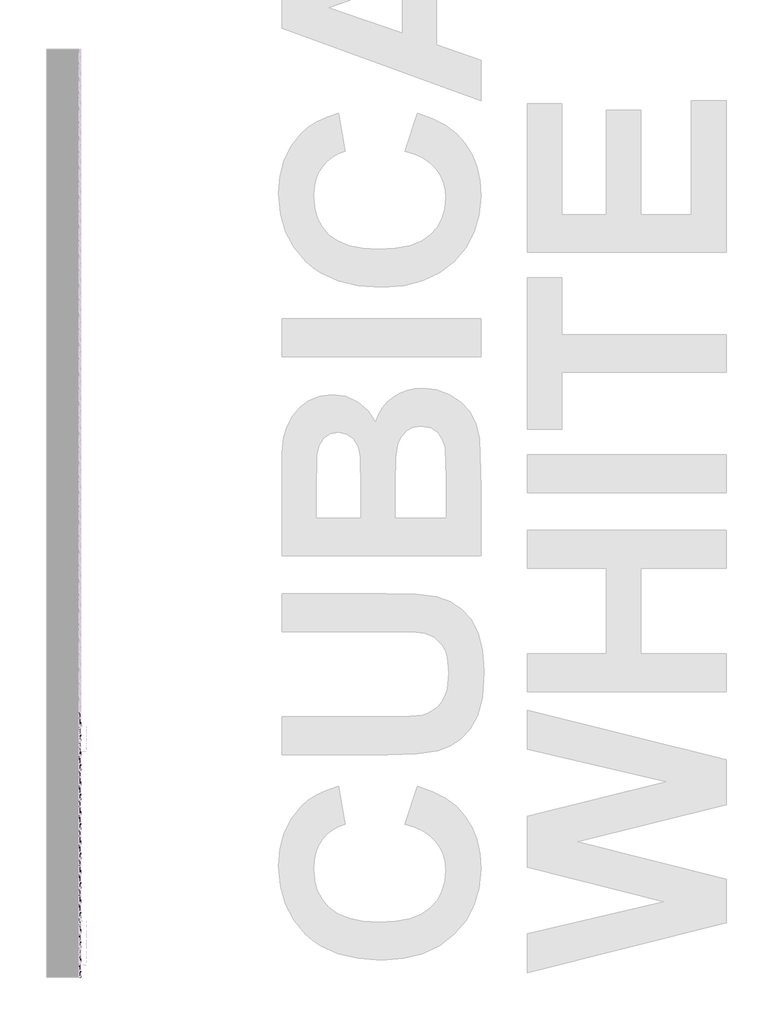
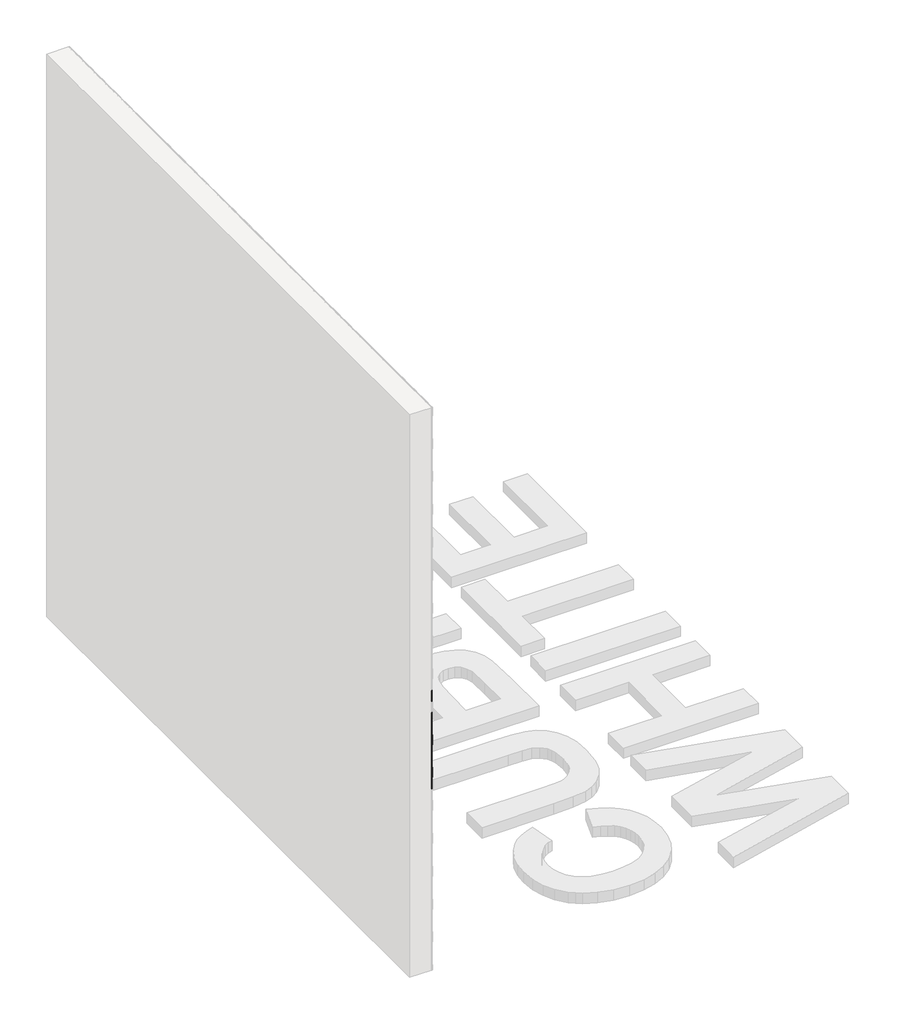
# One storey, part 100 of 121: 145 proxies.
"""IFC4 building model written with IfcOpenShell, lengths in millimetres."""

from ifc_helpers import new_model, si_unit, origin, place, context, project, spatial, transform, mapped, element, save
from components import generic_models_b2b2c5c1, generic_models_9bf73f6f, generic_models_5d175859, generic_models_45888c4d

model = new_model("IFC4")

# Units and contexts
model_context = context("Model", 3, world=origin())
ifc_project = project(units=[si_unit("LENGTHUNIT", "METRE", prefix="MILLI")], contexts=[model_context])

# Site, building, storey
site = spatial("IfcSite", under=ifc_project)
building = spatial("IfcBuilding", under=site)
storey = spatial("IfcBuildingStorey", under=building, Name="PORTOBELLO - SHOWROOM", Elevation=0.0)

# Proxies
placement = place(None, origin())
generic_models_shape = generic_models_b2b2c5c1(model_context)
element("IfcBuildingElementProxy", 1, Name="PBSHOP - CUBICA WHITE 4,8X8,3 : CUBICA WHITE - POSIÇÃO 01", ObjectType="PBSHOP - CUBICA WHITE 4,8X8,3 : CUBICA WHITE - POSIÇÃO 01", at=placement, inside=storey, context=model_context, shape_type="MappedRepresentation", body=[
    mapped(generic_models_shape, transform((150369.5341846, 19696.1637264, 907.7031889), x_axis=(0.0, 1.0, 0.0), y_axis=(0.0, 0.0, 1.0), z_axis=(1.0, 0.0, 0.0))),
])
element("IfcBuildingElementProxy", 2, Name="PBSHOP - CUBICA WHITE 4,8X8,3 : CUBICA WHITE - POSIÇÃO 01", ObjectType="PBSHOP - CUBICA WHITE 4,8X8,3 : CUBICA WHITE - POSIÇÃO 01", at=placement, inside=storey, context=model_context, shape_type="MappedRepresentation", body=[
    mapped(generic_models_shape, transform((150369.5341846, 19787.0029957, 907.7031889), x_axis=(0.0, 1.0, 0.0), y_axis=(0.0, 0.0, 1.0), z_axis=(1.0, 0.0, 0.0))),
])
element("IfcBuildingElementProxy", 3, Name="PBSHOP - CUBICA WHITE 4,8X8,3 : CUBICA WHITE - POSIÇÃO 01", ObjectType="PBSHOP - CUBICA WHITE 4,8X8,3 : CUBICA WHITE - POSIÇÃO 01", at=placement, inside=storey, context=model_context, shape_type="MappedRepresentation", body=[
    mapped(generic_models_shape, transform((150369.5341846, 19877.8422649, 907.7031889), x_axis=(0.0, 1.0, 0.0), y_axis=(0.0, 0.0, 1.0), z_axis=(1.0, 0.0, 0.0))),
])
element("IfcBuildingElementProxy", 4, Name="PBSHOP - CUBICA WHITE 4,8X8,3 : CUBICA WHITE - POSIÇÃO 01", ObjectType="PBSHOP - CUBICA WHITE 4,8X8,3 : CUBICA WHITE - POSIÇÃO 01", at=placement, inside=storey, context=model_context, shape_type="MappedRepresentation", body=[
    mapped(generic_models_shape, transform((150369.5341846, 19968.6815341, 907.7031889), x_axis=(0.0, 1.0, 0.0), y_axis=(0.0, 0.0, 1.0), z_axis=(1.0, 0.0, 0.0))),
])
element("IfcBuildingElementProxy", 5, Name="PBSHOP - CUBICA WHITE 4,8X8,3 : CUBICA WHITE - POSIÇÃO 01", ObjectType="PBSHOP - CUBICA WHITE 4,8X8,3 : CUBICA WHITE - POSIÇÃO 01", at=placement, inside=storey, context=model_context, shape_type="MappedRepresentation", body=[
    mapped(generic_models_shape, transform((150369.5341846, 19196.5477456, 986.6378273), x_axis=(0.0, 1.0, 0.0), y_axis=(0.0, 0.0, 1.0), z_axis=(1.0, 0.0, 0.0))),
])
element("IfcBuildingElementProxy", 6, Name="PBSHOP - CUBICA WHITE 4,8X8,3 : CUBICA WHITE - POSIÇÃO 01", ObjectType="PBSHOP - CUBICA WHITE 4,8X8,3 : CUBICA WHITE - POSIÇÃO 01", at=placement, inside=storey, context=model_context, shape_type="MappedRepresentation", body=[
    mapped(generic_models_shape, transform((150369.5341846, 19287.3870148, 986.6378273), x_axis=(0.0, 1.0, 0.0), y_axis=(0.0, 0.0, 1.0), z_axis=(1.0, 0.0, 0.0))),
])
element("IfcBuildingElementProxy", 7, Name="PBSHOP - CUBICA WHITE 4,8X8,3 : CUBICA WHITE - POSIÇÃO 01", ObjectType="PBSHOP - CUBICA WHITE 4,8X8,3 : CUBICA WHITE - POSIÇÃO 01", at=placement, inside=storey, context=model_context, shape_type="MappedRepresentation", body=[
    mapped(generic_models_shape, transform((150369.5341846, 19378.2262841, 986.6378273), x_axis=(0.0, 1.0, 0.0), y_axis=(0.0, 0.0, 1.0), z_axis=(1.0, 0.0, 0.0))),
])
element("IfcBuildingElementProxy", 8, Name="PBSHOP - CUBICA WHITE 4,8X8,3 : CUBICA WHITE - POSIÇÃO 01", ObjectType="PBSHOP - CUBICA WHITE 4,8X8,3 : CUBICA WHITE - POSIÇÃO 01", at=placement, inside=storey, context=model_context, shape_type="MappedRepresentation", body=[
    mapped(generic_models_shape, transform((150369.5341846, 19469.0655533, 986.6378273), x_axis=(0.0, 1.0, 0.0), y_axis=(0.0, 0.0, 1.0), z_axis=(1.0, 0.0, 0.0))),
])
element("IfcBuildingElementProxy", 9, Name="PBSHOP - CUBICA WHITE 4,8X8,3 : CUBICA WHITE - POSIÇÃO 01", ObjectType="PBSHOP - CUBICA WHITE 4,8X8,3 : CUBICA WHITE - POSIÇÃO 01", at=placement, inside=storey, context=model_context, shape_type="MappedRepresentation", body=[
    mapped(generic_models_shape, transform((150369.5341846, 19559.9048225, 986.6378273), x_axis=(0.0, 1.0, 0.0), y_axis=(0.0, 0.0, 1.0), z_axis=(1.0, 0.0, 0.0))),
])
element("IfcBuildingElementProxy", 10, Name="PBSHOP - CUBICA WHITE 4,8X8,3 : CUBICA WHITE - POSIÇÃO 01", ObjectType="PBSHOP - CUBICA WHITE 4,8X8,3 : CUBICA WHITE - POSIÇÃO 01", at=placement, inside=storey, context=model_context, shape_type="MappedRepresentation", body=[
    mapped(generic_models_shape, transform((150369.5341846, 19650.7440918, 986.6378273), x_axis=(0.0, 1.0, 0.0), y_axis=(0.0, 0.0, 1.0), z_axis=(1.0, 0.0, 0.0))),
])
element("IfcBuildingElementProxy", 11, Name="PBSHOP - CUBICA WHITE 4,8X8,3 : CUBICA WHITE - POSIÇÃO 01", ObjectType="PBSHOP - CUBICA WHITE 4,8X8,3 : CUBICA WHITE - POSIÇÃO 01", at=placement, inside=storey, context=model_context, shape_type="MappedRepresentation", body=[
    mapped(generic_models_shape, transform((150369.5341846, 19741.583361, 986.6378273), x_axis=(0.0, 1.0, 0.0), y_axis=(0.0, 0.0, 1.0), z_axis=(1.0, 0.0, 0.0))),
])
element("IfcBuildingElementProxy", 12, Name="PBSHOP - CUBICA WHITE 4,8X8,3 : CUBICA WHITE - POSIÇÃO 01", ObjectType="PBSHOP - CUBICA WHITE 4,8X8,3 : CUBICA WHITE - POSIÇÃO 01", at=placement, inside=storey, context=model_context, shape_type="MappedRepresentation", body=[
    mapped(generic_models_shape, transform((150369.5341846, 19832.4226303, 986.6378273), x_axis=(0.0, 1.0, 0.0), y_axis=(0.0, 0.0, 1.0), z_axis=(1.0, 0.0, 0.0))),
])
element("IfcBuildingElementProxy", 13, Name="PBSHOP - CUBICA WHITE 4,8X8,3 : CUBICA WHITE - POSIÇÃO 01", ObjectType="PBSHOP - CUBICA WHITE 4,8X8,3 : CUBICA WHITE - POSIÇÃO 01", at=placement, inside=storey, context=model_context, shape_type="MappedRepresentation", body=[
    mapped(generic_models_shape, transform((150369.5341846, 19923.2618995, 986.6378273), x_axis=(0.0, 1.0, 0.0), y_axis=(0.0, 0.0, 1.0), z_axis=(1.0, 0.0, 0.0))),
])
element("IfcBuildingElementProxy", 14, Name="PBSHOP - CUBICA WHITE 4,8X8,3 : CUBICA WHITE - POSIÇÃO 01", ObjectType="PBSHOP - CUBICA WHITE 4,8X8,3 : CUBICA WHITE - POSIÇÃO 01", at=placement, inside=storey, context=model_context, shape_type="MappedRepresentation", body=[
    mapped(generic_models_shape, transform((150369.5341846, 19241.9673802, 1065.5724657), x_axis=(0.0, 1.0, 0.0), y_axis=(0.0, 0.0, 1.0), z_axis=(1.0, 0.0, 0.0))),
])
element("IfcBuildingElementProxy", 15, Name="PBSHOP - CUBICA WHITE 4,8X8,3 : CUBICA WHITE - POSIÇÃO 01", ObjectType="PBSHOP - CUBICA WHITE 4,8X8,3 : CUBICA WHITE - POSIÇÃO 01", at=placement, inside=storey, context=model_context, shape_type="MappedRepresentation", body=[
    mapped(generic_models_shape, transform((150369.5341846, 19332.8066494, 1065.5724657), x_axis=(0.0, 1.0, 0.0), y_axis=(0.0, 0.0, 1.0), z_axis=(1.0, 0.0, 0.0))),
])
element("IfcBuildingElementProxy", 16, Name="PBSHOP - CUBICA WHITE 4,8X8,3 : CUBICA WHITE - POSIÇÃO 01", ObjectType="PBSHOP - CUBICA WHITE 4,8X8,3 : CUBICA WHITE - POSIÇÃO 01", at=placement, inside=storey, context=model_context, shape_type="MappedRepresentation", body=[
    mapped(generic_models_shape, transform((150369.5341846, 19423.6459187, 1065.5724657), x_axis=(0.0, 1.0, 0.0), y_axis=(0.0, 0.0, 1.0), z_axis=(1.0, 0.0, 0.0))),
])
element("IfcBuildingElementProxy", 17, Name="PBSHOP - CUBICA WHITE 4,8X8,3 : CUBICA WHITE - POSIÇÃO 01", ObjectType="PBSHOP - CUBICA WHITE 4,8X8,3 : CUBICA WHITE - POSIÇÃO 01", at=placement, inside=storey, context=model_context, shape_type="MappedRepresentation", body=[
    mapped(generic_models_shape, transform((150369.5341846, 19514.4851879, 1065.5724657), x_axis=(0.0, 1.0, 0.0), y_axis=(0.0, 0.0, 1.0), z_axis=(1.0, 0.0, 0.0))),
])
element("IfcBuildingElementProxy", 18, Name="PBSHOP - CUBICA WHITE 4,8X8,3 : CUBICA WHITE - POSIÇÃO 01", ObjectType="PBSHOP - CUBICA WHITE 4,8X8,3 : CUBICA WHITE - POSIÇÃO 01", at=placement, inside=storey, context=model_context, shape_type="MappedRepresentation", body=[
    mapped(generic_models_shape, transform((150369.5341846, 19605.3244572, 1065.5724657), x_axis=(0.0, 1.0, 0.0), y_axis=(0.0, 0.0, 1.0), z_axis=(1.0, 0.0, 0.0))),
])
element("IfcBuildingElementProxy", 19, Name="PBSHOP - CUBICA WHITE 4,8X8,3 : CUBICA WHITE - POSIÇÃO 01", ObjectType="PBSHOP - CUBICA WHITE 4,8X8,3 : CUBICA WHITE - POSIÇÃO 01", at=placement, inside=storey, context=model_context, shape_type="MappedRepresentation", body=[
    mapped(generic_models_shape, transform((150369.5341846, 19696.1637264, 1065.5724657), x_axis=(0.0, 1.0, 0.0), y_axis=(0.0, 0.0, 1.0), z_axis=(1.0, 0.0, 0.0))),
])
element("IfcBuildingElementProxy", 20, Name="PBSHOP - CUBICA WHITE 4,8X8,3 : CUBICA WHITE - POSIÇÃO 01", ObjectType="PBSHOP - CUBICA WHITE 4,8X8,3 : CUBICA WHITE - POSIÇÃO 01", at=placement, inside=storey, context=model_context, shape_type="MappedRepresentation", body=[
    mapped(generic_models_shape, transform((150369.5341846, 19787.0029957, 1065.5724657), x_axis=(0.0, 1.0, 0.0), y_axis=(0.0, 0.0, 1.0), z_axis=(1.0, 0.0, 0.0))),
])
element("IfcBuildingElementProxy", 21, Name="PBSHOP - CUBICA WHITE 4,8X8,3 : CUBICA WHITE - POSIÇÃO 01", ObjectType="PBSHOP - CUBICA WHITE 4,8X8,3 : CUBICA WHITE - POSIÇÃO 01", at=placement, inside=storey, context=model_context, shape_type="MappedRepresentation", body=[
    mapped(generic_models_shape, transform((150369.5341846, 19877.8422649, 1065.5724657), x_axis=(0.0, 1.0, 0.0), y_axis=(0.0, 0.0, 1.0), z_axis=(1.0, 0.0, 0.0))),
])
element("IfcBuildingElementProxy", 22, Name="PBSHOP - CUBICA WHITE 4,8X8,3 : CUBICA WHITE - POSIÇÃO 01", ObjectType="PBSHOP - CUBICA WHITE 4,8X8,3 : CUBICA WHITE - POSIÇÃO 01", at=placement, inside=storey, context=model_context, shape_type="MappedRepresentation", body=[
    mapped(generic_models_shape, transform((150369.5341846, 19968.6815341, 1065.5724657), x_axis=(0.0, 1.0, 0.0), y_axis=(0.0, 0.0, 1.0), z_axis=(1.0, 0.0, 0.0))),
])
element("IfcBuildingElementProxy", 23, Name="PBSHOP - CUBICA WHITE 4,8X8,3 : CUBICA WHITE - POSIÇÃO 01", ObjectType="PBSHOP - CUBICA WHITE 4,8X8,3 : CUBICA WHITE - POSIÇÃO 01", at=placement, inside=storey, context=model_context, shape_type="MappedRepresentation", body=[
    mapped(generic_models_shape, transform((150369.5341846, 19196.5477456, 1144.507104), x_axis=(0.0, 1.0, 0.0), y_axis=(0.0, 0.0, 1.0), z_axis=(1.0, 0.0, 0.0))),
])
element("IfcBuildingElementProxy", 24, Name="PBSHOP - CUBICA WHITE 4,8X8,3 : CUBICA WHITE - POSIÇÃO 01", ObjectType="PBSHOP - CUBICA WHITE 4,8X8,3 : CUBICA WHITE - POSIÇÃO 01", at=placement, inside=storey, context=model_context, shape_type="MappedRepresentation", body=[
    mapped(generic_models_shape, transform((150369.5341846, 19287.3870148, 1144.507104), x_axis=(0.0, 1.0, 0.0), y_axis=(0.0, 0.0, 1.0), z_axis=(1.0, 0.0, 0.0))),
])
element("IfcBuildingElementProxy", 25, Name="PBSHOP - CUBICA WHITE 4,8X8,3 : CUBICA WHITE - POSIÇÃO 01", ObjectType="PBSHOP - CUBICA WHITE 4,8X8,3 : CUBICA WHITE - POSIÇÃO 01", at=placement, inside=storey, context=model_context, shape_type="MappedRepresentation", body=[
    mapped(generic_models_shape, transform((150369.5341846, 19378.2262841, 1144.507104), x_axis=(0.0, 1.0, 0.0), y_axis=(0.0, 0.0, 1.0), z_axis=(1.0, 0.0, 0.0))),
])
element("IfcBuildingElementProxy", 26, Name="PBSHOP - CUBICA WHITE 4,8X8,3 : CUBICA WHITE - POSIÇÃO 01", ObjectType="PBSHOP - CUBICA WHITE 4,8X8,3 : CUBICA WHITE - POSIÇÃO 01", at=placement, inside=storey, context=model_context, shape_type="MappedRepresentation", body=[
    mapped(generic_models_shape, transform((150369.5341846, 19469.0655533, 1144.507104), x_axis=(0.0, 1.0, 0.0), y_axis=(0.0, 0.0, 1.0), z_axis=(1.0, 0.0, 0.0))),
])
element("IfcBuildingElementProxy", 27, Name="PBSHOP - CUBICA WHITE 4,8X8,3 : CUBICA WHITE - POSIÇÃO 01", ObjectType="PBSHOP - CUBICA WHITE 4,8X8,3 : CUBICA WHITE - POSIÇÃO 01", at=placement, inside=storey, context=model_context, shape_type="MappedRepresentation", body=[
    mapped(generic_models_shape, transform((150369.5341846, 19559.9048225, 1144.507104), x_axis=(0.0, 1.0, 0.0), y_axis=(0.0, 0.0, 1.0), z_axis=(1.0, 0.0, 0.0))),
])
element("IfcBuildingElementProxy", 28, Name="PBSHOP - CUBICA WHITE 4,8X8,3 : CUBICA WHITE - POSIÇÃO 01", ObjectType="PBSHOP - CUBICA WHITE 4,8X8,3 : CUBICA WHITE - POSIÇÃO 01", at=placement, inside=storey, context=model_context, shape_type="MappedRepresentation", body=[
    mapped(generic_models_shape, transform((150369.5341846, 19650.7440918, 1144.507104), x_axis=(0.0, 1.0, 0.0), y_axis=(0.0, 0.0, 1.0), z_axis=(1.0, 0.0, 0.0))),
])
element("IfcBuildingElementProxy", 29, Name="PBSHOP - CUBICA WHITE 4,8X8,3 : CUBICA WHITE - POSIÇÃO 01", ObjectType="PBSHOP - CUBICA WHITE 4,8X8,3 : CUBICA WHITE - POSIÇÃO 01", at=placement, inside=storey, context=model_context, shape_type="MappedRepresentation", body=[
    mapped(generic_models_shape, transform((150369.5341846, 19741.583361, 1144.507104), x_axis=(0.0, 1.0, 0.0), y_axis=(0.0, 0.0, 1.0), z_axis=(1.0, 0.0, 0.0))),
])
element("IfcBuildingElementProxy", 30, Name="PBSHOP - CUBICA WHITE 4,8X8,3 : CUBICA WHITE - POSIÇÃO 01", ObjectType="PBSHOP - CUBICA WHITE 4,8X8,3 : CUBICA WHITE - POSIÇÃO 01", at=placement, inside=storey, context=model_context, shape_type="MappedRepresentation", body=[
    mapped(generic_models_shape, transform((150369.5341846, 19832.4226303, 1144.507104), x_axis=(0.0, 1.0, 0.0), y_axis=(0.0, 0.0, 1.0), z_axis=(1.0, 0.0, 0.0))),
])
element("IfcBuildingElementProxy", 31, Name="PBSHOP - CUBICA WHITE 4,8X8,3 : CUBICA WHITE - POSIÇÃO 01", ObjectType="PBSHOP - CUBICA WHITE 4,8X8,3 : CUBICA WHITE - POSIÇÃO 01", at=placement, inside=storey, context=model_context, shape_type="MappedRepresentation", body=[
    mapped(generic_models_shape, transform((150369.5341846, 19923.2618995, 1144.507104), x_axis=(0.0, 1.0, 0.0), y_axis=(0.0, 0.0, 1.0), z_axis=(1.0, 0.0, 0.0))),
])
element("IfcBuildingElementProxy", 32, Name="PBSHOP - CUBICA WHITE 4,8X8,3 : CUBICA WHITE - POSIÇÃO 01", ObjectType="PBSHOP - CUBICA WHITE 4,8X8,3 : CUBICA WHITE - POSIÇÃO 01", at=placement, inside=storey, context=model_context, shape_type="MappedRepresentation", body=[
    mapped(generic_models_shape, transform((150369.5341846, 19241.9673802, 1223.4417424), x_axis=(0.0, 1.0, 0.0), y_axis=(0.0, 0.0, 1.0), z_axis=(1.0, 0.0, 0.0))),
])
element("IfcBuildingElementProxy", 33, Name="PBSHOP - CUBICA WHITE 4,8X8,3 : CUBICA WHITE - POSIÇÃO 01", ObjectType="PBSHOP - CUBICA WHITE 4,8X8,3 : CUBICA WHITE - POSIÇÃO 01", at=placement, inside=storey, context=model_context, shape_type="MappedRepresentation", body=[
    mapped(generic_models_shape, transform((150369.5341846, 19332.8066494, 1223.4417424), x_axis=(0.0, 1.0, 0.0), y_axis=(0.0, 0.0, 1.0), z_axis=(1.0, 0.0, 0.0))),
])
element("IfcBuildingElementProxy", 34, Name="PBSHOP - CUBICA WHITE 4,8X8,3 : CUBICA WHITE - POSIÇÃO 01", ObjectType="PBSHOP - CUBICA WHITE 4,8X8,3 : CUBICA WHITE - POSIÇÃO 01", at=placement, inside=storey, context=model_context, shape_type="MappedRepresentation", body=[
    mapped(generic_models_shape, transform((150369.5341846, 19423.6459187, 1223.4417424), x_axis=(0.0, 1.0, 0.0), y_axis=(0.0, 0.0, 1.0), z_axis=(1.0, 0.0, 0.0))),
])
element("IfcBuildingElementProxy", 35, Name="PBSHOP - CUBICA WHITE 4,8X8,3 : CUBICA WHITE - POSIÇÃO 01", ObjectType="PBSHOP - CUBICA WHITE 4,8X8,3 : CUBICA WHITE - POSIÇÃO 01", at=placement, inside=storey, context=model_context, shape_type="MappedRepresentation", body=[
    mapped(generic_models_shape, transform((150369.5341846, 19514.4851879, 1223.4417424), x_axis=(0.0, 1.0, 0.0), y_axis=(0.0, 0.0, 1.0), z_axis=(1.0, 0.0, 0.0))),
])
element("IfcBuildingElementProxy", 36, Name="PBSHOP - CUBICA WHITE 4,8X8,3 : CUBICA WHITE - POSIÇÃO 01", ObjectType="PBSHOP - CUBICA WHITE 4,8X8,3 : CUBICA WHITE - POSIÇÃO 01", at=placement, inside=storey, context=model_context, shape_type="MappedRepresentation", body=[
    mapped(generic_models_shape, transform((150369.5341846, 19605.3244572, 1223.4417424), x_axis=(0.0, 1.0, 0.0), y_axis=(0.0, 0.0, 1.0), z_axis=(1.0, 0.0, 0.0))),
])
element("IfcBuildingElementProxy", 37, Name="PBSHOP - CUBICA WHITE 4,8X8,3 : CUBICA WHITE - POSIÇÃO 01", ObjectType="PBSHOP - CUBICA WHITE 4,8X8,3 : CUBICA WHITE - POSIÇÃO 01", at=placement, inside=storey, context=model_context, shape_type="MappedRepresentation", body=[
    mapped(generic_models_shape, transform((150369.5341846, 19696.1637264, 1223.4417424), x_axis=(0.0, 1.0, 0.0), y_axis=(0.0, 0.0, 1.0), z_axis=(1.0, 0.0, 0.0))),
])
element("IfcBuildingElementProxy", 38, Name="PBSHOP - CUBICA WHITE 4,8X8,3 : CUBICA WHITE - POSIÇÃO 01", ObjectType="PBSHOP - CUBICA WHITE 4,8X8,3 : CUBICA WHITE - POSIÇÃO 01", at=placement, inside=storey, context=model_context, shape_type="MappedRepresentation", body=[
    mapped(generic_models_shape, transform((150369.5341846, 19787.0029957, 1223.4417424), x_axis=(0.0, 1.0, 0.0), y_axis=(0.0, 0.0, 1.0), z_axis=(1.0, 0.0, 0.0))),
])
element("IfcBuildingElementProxy", 39, Name="PBSHOP - CUBICA WHITE 4,8X8,3 : CUBICA WHITE - POSIÇÃO 01", ObjectType="PBSHOP - CUBICA WHITE 4,8X8,3 : CUBICA WHITE - POSIÇÃO 01", at=placement, inside=storey, context=model_context, shape_type="MappedRepresentation", body=[
    mapped(generic_models_shape, transform((150369.5341846, 19877.8422649, 1223.4417424), x_axis=(0.0, 1.0, 0.0), y_axis=(0.0, 0.0, 1.0), z_axis=(1.0, 0.0, 0.0))),
])
element("IfcBuildingElementProxy", 40, Name="PBSHOP - CUBICA WHITE 4,8X8,3 : CUBICA WHITE - POSIÇÃO 01", ObjectType="PBSHOP - CUBICA WHITE 4,8X8,3 : CUBICA WHITE - POSIÇÃO 01", at=placement, inside=storey, context=model_context, shape_type="MappedRepresentation", body=[
    mapped(generic_models_shape, transform((150369.5341846, 19968.6815341, 1223.4417424), x_axis=(0.0, 1.0, 0.0), y_axis=(0.0, 0.0, 1.0), z_axis=(1.0, 0.0, 0.0))),
])
element("IfcBuildingElementProxy", 41, Name="PBSHOP - CUBICA WHITE 4,8X8,3 : CUBICA WHITE - POSIÇÃO 01", ObjectType="PBSHOP - CUBICA WHITE 4,8X8,3 : CUBICA WHITE - POSIÇÃO 01", at=placement, inside=storey, context=model_context, shape_type="MappedRepresentation", body=[
    mapped(generic_models_shape, transform((150369.5341846, 19196.5477456, 1302.3763808), x_axis=(0.0, 1.0, 0.0), y_axis=(0.0, 0.0, 1.0), z_axis=(1.0, 0.0, 0.0))),
])
element("IfcBuildingElementProxy", 42, Name="PBSHOP - CUBICA WHITE 4,8X8,3 : CUBICA WHITE - POSIÇÃO 01", ObjectType="PBSHOP - CUBICA WHITE 4,8X8,3 : CUBICA WHITE - POSIÇÃO 01", at=placement, inside=storey, context=model_context, shape_type="MappedRepresentation", body=[
    mapped(generic_models_shape, transform((150369.5341846, 19287.3870148, 1302.3763808), x_axis=(0.0, 1.0, 0.0), y_axis=(0.0, 0.0, 1.0), z_axis=(1.0, 0.0, 0.0))),
])
element("IfcBuildingElementProxy", 43, Name="PBSHOP - CUBICA WHITE 4,8X8,3 : CUBICA WHITE - POSIÇÃO 01", ObjectType="PBSHOP - CUBICA WHITE 4,8X8,3 : CUBICA WHITE - POSIÇÃO 01", at=placement, inside=storey, context=model_context, shape_type="MappedRepresentation", body=[
    mapped(generic_models_shape, transform((150369.5341846, 19378.2262841, 1302.3763808), x_axis=(0.0, 1.0, 0.0), y_axis=(0.0, 0.0, 1.0), z_axis=(1.0, 0.0, 0.0))),
])
element("IfcBuildingElementProxy", 44, Name="PBSHOP - CUBICA WHITE 4,8X8,3 : CUBICA WHITE - POSIÇÃO 01", ObjectType="PBSHOP - CUBICA WHITE 4,8X8,3 : CUBICA WHITE - POSIÇÃO 01", at=placement, inside=storey, context=model_context, shape_type="MappedRepresentation", body=[
    mapped(generic_models_shape, transform((150369.5341846, 19469.0655533, 1302.3763808), x_axis=(0.0, 1.0, 0.0), y_axis=(0.0, 0.0, 1.0), z_axis=(1.0, 0.0, 0.0))),
])
element("IfcBuildingElementProxy", 45, Name="PBSHOP - CUBICA WHITE 4,8X8,3 : CUBICA WHITE - POSIÇÃO 01", ObjectType="PBSHOP - CUBICA WHITE 4,8X8,3 : CUBICA WHITE - POSIÇÃO 01", at=placement, inside=storey, context=model_context, shape_type="MappedRepresentation", body=[
    mapped(generic_models_shape, transform((150369.5341846, 19559.9048225, 1302.3763808), x_axis=(0.0, 1.0, 0.0), y_axis=(0.0, 0.0, 1.0), z_axis=(1.0, 0.0, 0.0))),
])
element("IfcBuildingElementProxy", 46, Name="PBSHOP - CUBICA WHITE 4,8X8,3 : CUBICA WHITE - POSIÇÃO 01", ObjectType="PBSHOP - CUBICA WHITE 4,8X8,3 : CUBICA WHITE - POSIÇÃO 01", at=placement, inside=storey, context=model_context, shape_type="MappedRepresentation", body=[
    mapped(generic_models_shape, transform((150369.5341846, 19650.7440918, 1302.3763808), x_axis=(0.0, 1.0, 0.0), y_axis=(0.0, 0.0, 1.0), z_axis=(1.0, 0.0, 0.0))),
])
element("IfcBuildingElementProxy", 47, Name="PBSHOP - CUBICA WHITE 4,8X8,3 : CUBICA WHITE - POSIÇÃO 01", ObjectType="PBSHOP - CUBICA WHITE 4,8X8,3 : CUBICA WHITE - POSIÇÃO 01", at=placement, inside=storey, context=model_context, shape_type="MappedRepresentation", body=[
    mapped(generic_models_shape, transform((150369.5341846, 19741.583361, 1302.3763808), x_axis=(0.0, 1.0, 0.0), y_axis=(0.0, 0.0, 1.0), z_axis=(1.0, 0.0, 0.0))),
])
element("IfcBuildingElementProxy", 48, Name="PBSHOP - CUBICA WHITE 4,8X8,3 : CUBICA WHITE - POSIÇÃO 01", ObjectType="PBSHOP - CUBICA WHITE 4,8X8,3 : CUBICA WHITE - POSIÇÃO 01", at=placement, inside=storey, context=model_context, shape_type="MappedRepresentation", body=[
    mapped(generic_models_shape, transform((150369.5341846, 19832.4226303, 1302.3763808), x_axis=(0.0, 1.0, 0.0), y_axis=(0.0, 0.0, 1.0), z_axis=(1.0, 0.0, 0.0))),
])
element("IfcBuildingElementProxy", 49, Name="PBSHOP - CUBICA WHITE 4,8X8,3 : CUBICA WHITE - POSIÇÃO 01", ObjectType="PBSHOP - CUBICA WHITE 4,8X8,3 : CUBICA WHITE - POSIÇÃO 01", at=placement, inside=storey, context=model_context, shape_type="MappedRepresentation", body=[
    mapped(generic_models_shape, transform((150369.5341846, 19923.2618995, 1302.3763808), x_axis=(0.0, 1.0, 0.0), y_axis=(0.0, 0.0, 1.0), z_axis=(1.0, 0.0, 0.0))),
])
generic_models_2_shape = generic_models_9bf73f6f(model_context)
element("IfcBuildingElementProxy", 50, Name="PBSHOP - CUBICA WHITE 4,8X8,3 : CUBICA WHITE - POSIÇÃO 03", ObjectType="PBSHOP - CUBICA WHITE 4,8X8,3 : CUBICA WHITE - POSIÇÃO 03", at=placement, inside=storey, context=model_context, shape_type="MappedRepresentation", body=[
    mapped(generic_models_2_shape, transform((150369.5341846, 19219.259722, 868.1946593), x_axis=(0.0, 1.0, 0.0), y_axis=(0.0, 0.0, 1.0), z_axis=(1.0, 0.0, 0.0))),
])
element("IfcBuildingElementProxy", 51, Name="PBSHOP - CUBICA WHITE 4,8X8,3 : CUBICA WHITE - POSIÇÃO 03", ObjectType="PBSHOP - CUBICA WHITE 4,8X8,3 : CUBICA WHITE - POSIÇÃO 03", at=placement, inside=storey, context=model_context, shape_type="MappedRepresentation", body=[
    mapped(generic_models_2_shape, transform((150369.5341846, 19310.0989913, 868.1946593), x_axis=(0.0, 1.0, 0.0), y_axis=(0.0, 0.0, 1.0), z_axis=(1.0, 0.0, 0.0))),
])
element("IfcBuildingElementProxy", 52, Name="PBSHOP - CUBICA WHITE 4,8X8,3 : CUBICA WHITE - POSIÇÃO 03", ObjectType="PBSHOP - CUBICA WHITE 4,8X8,3 : CUBICA WHITE - POSIÇÃO 03", at=placement, inside=storey, context=model_context, shape_type="MappedRepresentation", body=[
    mapped(generic_models_2_shape, transform((150369.5341846, 19400.9382605, 868.1946593), x_axis=(0.0, 1.0, 0.0), y_axis=(0.0, 0.0, 1.0), z_axis=(1.0, 0.0, 0.0))),
])
element("IfcBuildingElementProxy", 53, Name="PBSHOP - CUBICA WHITE 4,8X8,3 : CUBICA WHITE - POSIÇÃO 03", ObjectType="PBSHOP - CUBICA WHITE 4,8X8,3 : CUBICA WHITE - POSIÇÃO 03", at=placement, inside=storey, context=model_context, shape_type="MappedRepresentation", body=[
    mapped(generic_models_2_shape, transform((150369.5341846, 19491.7775298, 868.1946593), x_axis=(0.0, 1.0, 0.0), y_axis=(0.0, 0.0, 1.0), z_axis=(1.0, 0.0, 0.0))),
])
element("IfcBuildingElementProxy", 54, Name="PBSHOP - CUBICA WHITE 4,8X8,3 : CUBICA WHITE - POSIÇÃO 03", ObjectType="PBSHOP - CUBICA WHITE 4,8X8,3 : CUBICA WHITE - POSIÇÃO 03", at=placement, inside=storey, context=model_context, shape_type="MappedRepresentation", body=[
    mapped(generic_models_2_shape, transform((150369.5341846, 19582.616799, 868.1946593), x_axis=(0.0, 1.0, 0.0), y_axis=(0.0, 0.0, 1.0), z_axis=(1.0, 0.0, 0.0))),
])
element("IfcBuildingElementProxy", 55, Name="PBSHOP - CUBICA WHITE 4,8X8,3 : CUBICA WHITE - POSIÇÃO 03", ObjectType="PBSHOP - CUBICA WHITE 4,8X8,3 : CUBICA WHITE - POSIÇÃO 03", at=placement, inside=storey, context=model_context, shape_type="MappedRepresentation", body=[
    mapped(generic_models_2_shape, transform((150369.5341846, 19673.4560683, 868.1946593), x_axis=(0.0, 1.0, 0.0), y_axis=(0.0, 0.0, 1.0), z_axis=(1.0, 0.0, 0.0))),
])
element("IfcBuildingElementProxy", 56, Name="PBSHOP - CUBICA WHITE 4,8X8,3 : CUBICA WHITE - POSIÇÃO 03", ObjectType="PBSHOP - CUBICA WHITE 4,8X8,3 : CUBICA WHITE - POSIÇÃO 03", at=placement, inside=storey, context=model_context, shape_type="MappedRepresentation", body=[
    mapped(generic_models_2_shape, transform((150369.5341846, 19764.2953375, 868.1946593), x_axis=(0.0, 1.0, 0.0), y_axis=(0.0, 0.0, 1.0), z_axis=(1.0, 0.0, 0.0))),
])
element("IfcBuildingElementProxy", 57, Name="PBSHOP - CUBICA WHITE 4,8X8,3 : CUBICA WHITE - POSIÇÃO 03", ObjectType="PBSHOP - CUBICA WHITE 4,8X8,3 : CUBICA WHITE - POSIÇÃO 03", at=placement, inside=storey, context=model_context, shape_type="MappedRepresentation", body=[
    mapped(generic_models_2_shape, transform((150369.5341846, 19855.1346068, 868.1946593), x_axis=(0.0, 1.0, 0.0), y_axis=(0.0, 0.0, 1.0), z_axis=(1.0, 0.0, 0.0))),
])
element("IfcBuildingElementProxy", 58, Name="PBSHOP - CUBICA WHITE 4,8X8,3 : CUBICA WHITE - POSIÇÃO 03", ObjectType="PBSHOP - CUBICA WHITE 4,8X8,3 : CUBICA WHITE - POSIÇÃO 03", at=placement, inside=storey, context=model_context, shape_type="MappedRepresentation", body=[
    mapped(generic_models_2_shape, transform((150369.5341846, 19945.973876, 868.1946593), x_axis=(0.0, 1.0, 0.0), y_axis=(0.0, 0.0, 1.0), z_axis=(1.0, 0.0, 0.0))),
])
element("IfcBuildingElementProxy", 59, Name="PBSHOP - CUBICA WHITE 4,8X8,3 : CUBICA WHITE - POSIÇÃO 03", ObjectType="PBSHOP - CUBICA WHITE 4,8X8,3 : CUBICA WHITE - POSIÇÃO 03", at=placement, inside=storey, context=model_context, shape_type="MappedRepresentation", body=[
    mapped(generic_models_2_shape, transform((150369.5341846, 19264.6793567, 947.1292977), x_axis=(0.0, 1.0, 0.0), y_axis=(0.0, 0.0, 1.0), z_axis=(1.0, 0.0, 0.0))),
])
element("IfcBuildingElementProxy", 60, Name="PBSHOP - CUBICA WHITE 4,8X8,3 : CUBICA WHITE - POSIÇÃO 03", ObjectType="PBSHOP - CUBICA WHITE 4,8X8,3 : CUBICA WHITE - POSIÇÃO 03", at=placement, inside=storey, context=model_context, shape_type="MappedRepresentation", body=[
    mapped(generic_models_2_shape, transform((150369.5341846, 19355.5186259, 947.1292977), x_axis=(0.0, 1.0, 0.0), y_axis=(0.0, 0.0, 1.0), z_axis=(1.0, 0.0, 0.0))),
])
element("IfcBuildingElementProxy", 61, Name="PBSHOP - CUBICA WHITE 4,8X8,3 : CUBICA WHITE - POSIÇÃO 03", ObjectType="PBSHOP - CUBICA WHITE 4,8X8,3 : CUBICA WHITE - POSIÇÃO 03", at=placement, inside=storey, context=model_context, shape_type="MappedRepresentation", body=[
    mapped(generic_models_2_shape, transform((150369.5341846, 19446.3578952, 947.1292977), x_axis=(0.0, 1.0, 0.0), y_axis=(0.0, 0.0, 1.0), z_axis=(1.0, 0.0, 0.0))),
])
element("IfcBuildingElementProxy", 62, Name="PBSHOP - CUBICA WHITE 4,8X8,3 : CUBICA WHITE - POSIÇÃO 03", ObjectType="PBSHOP - CUBICA WHITE 4,8X8,3 : CUBICA WHITE - POSIÇÃO 03", at=placement, inside=storey, context=model_context, shape_type="MappedRepresentation", body=[
    mapped(generic_models_2_shape, transform((150369.5341846, 19537.1971644, 947.1292977), x_axis=(0.0, 1.0, 0.0), y_axis=(0.0, 0.0, 1.0), z_axis=(1.0, 0.0, 0.0))),
])
element("IfcBuildingElementProxy", 63, Name="PBSHOP - CUBICA WHITE 4,8X8,3 : CUBICA WHITE - POSIÇÃO 03", ObjectType="PBSHOP - CUBICA WHITE 4,8X8,3 : CUBICA WHITE - POSIÇÃO 03", at=placement, inside=storey, context=model_context, shape_type="MappedRepresentation", body=[
    mapped(generic_models_2_shape, transform((150369.5341846, 19628.0364336, 947.1292977), x_axis=(0.0, 1.0, 0.0), y_axis=(0.0, 0.0, 1.0), z_axis=(1.0, 0.0, 0.0))),
])
element("IfcBuildingElementProxy", 64, Name="PBSHOP - CUBICA WHITE 4,8X8,3 : CUBICA WHITE - POSIÇÃO 03", ObjectType="PBSHOP - CUBICA WHITE 4,8X8,3 : CUBICA WHITE - POSIÇÃO 03", at=placement, inside=storey, context=model_context, shape_type="MappedRepresentation", body=[
    mapped(generic_models_2_shape, transform((150369.5341846, 19718.8757029, 947.1292977), x_axis=(0.0, 1.0, 0.0), y_axis=(0.0, 0.0, 1.0), z_axis=(1.0, 0.0, 0.0))),
])
element("IfcBuildingElementProxy", 65, Name="PBSHOP - CUBICA WHITE 4,8X8,3 : CUBICA WHITE - POSIÇÃO 03", ObjectType="PBSHOP - CUBICA WHITE 4,8X8,3 : CUBICA WHITE - POSIÇÃO 03", at=placement, inside=storey, context=model_context, shape_type="MappedRepresentation", body=[
    mapped(generic_models_2_shape, transform((150369.5341846, 19809.7149721, 947.1292977), x_axis=(0.0, 1.0, 0.0), y_axis=(0.0, 0.0, 1.0), z_axis=(1.0, 0.0, 0.0))),
])
element("IfcBuildingElementProxy", 66, Name="PBSHOP - CUBICA WHITE 4,8X8,3 : CUBICA WHITE - POSIÇÃO 03", ObjectType="PBSHOP - CUBICA WHITE 4,8X8,3 : CUBICA WHITE - POSIÇÃO 03", at=placement, inside=storey, context=model_context, shape_type="MappedRepresentation", body=[
    mapped(generic_models_2_shape, transform((150369.5341846, 19900.5542414, 947.1292977), x_axis=(0.0, 1.0, 0.0), y_axis=(0.0, 0.0, 1.0), z_axis=(1.0, 0.0, 0.0))),
])
element("IfcBuildingElementProxy", 67, Name="PBSHOP - CUBICA WHITE 4,8X8,3 : CUBICA WHITE - POSIÇÃO 03", ObjectType="PBSHOP - CUBICA WHITE 4,8X8,3 : CUBICA WHITE - POSIÇÃO 03", at=placement, inside=storey, context=model_context, shape_type="MappedRepresentation", body=[
    mapped(generic_models_2_shape, transform((150369.5341846, 19991.3935106, 947.1292977), x_axis=(0.0, 1.0, 0.0), y_axis=(0.0, 0.0, 1.0), z_axis=(1.0, 0.0, 0.0))),
])
element("IfcBuildingElementProxy", 68, Name="PBSHOP - CUBICA WHITE 4,8X8,3 : CUBICA WHITE - POSIÇÃO 03", ObjectType="PBSHOP - CUBICA WHITE 4,8X8,3 : CUBICA WHITE - POSIÇÃO 03", at=placement, inside=storey, context=model_context, shape_type="MappedRepresentation", body=[
    mapped(generic_models_2_shape, transform((150369.5341846, 19219.259722, 1026.0639361), x_axis=(0.0, 1.0, 0.0), y_axis=(0.0, 0.0, 1.0), z_axis=(1.0, 0.0, 0.0))),
])
element("IfcBuildingElementProxy", 69, Name="PBSHOP - CUBICA WHITE 4,8X8,3 : CUBICA WHITE - POSIÇÃO 03", ObjectType="PBSHOP - CUBICA WHITE 4,8X8,3 : CUBICA WHITE - POSIÇÃO 03", at=placement, inside=storey, context=model_context, shape_type="MappedRepresentation", body=[
    mapped(generic_models_2_shape, transform((150369.5341846, 19310.0989913, 1026.0639361), x_axis=(0.0, 1.0, 0.0), y_axis=(0.0, 0.0, 1.0), z_axis=(1.0, 0.0, 0.0))),
])
element("IfcBuildingElementProxy", 70, Name="PBSHOP - CUBICA WHITE 4,8X8,3 : CUBICA WHITE - POSIÇÃO 03", ObjectType="PBSHOP - CUBICA WHITE 4,8X8,3 : CUBICA WHITE - POSIÇÃO 03", at=placement, inside=storey, context=model_context, shape_type="MappedRepresentation", body=[
    mapped(generic_models_2_shape, transform((150369.5341846, 19400.9382605, 1026.0639361), x_axis=(0.0, 1.0, 0.0), y_axis=(0.0, 0.0, 1.0), z_axis=(1.0, 0.0, 0.0))),
])
element("IfcBuildingElementProxy", 71, Name="PBSHOP - CUBICA WHITE 4,8X8,3 : CUBICA WHITE - POSIÇÃO 03", ObjectType="PBSHOP - CUBICA WHITE 4,8X8,3 : CUBICA WHITE - POSIÇÃO 03", at=placement, inside=storey, context=model_context, shape_type="MappedRepresentation", body=[
    mapped(generic_models_2_shape, transform((150369.5341846, 19491.7775298, 1026.0639361), x_axis=(0.0, 1.0, 0.0), y_axis=(0.0, 0.0, 1.0), z_axis=(1.0, 0.0, 0.0))),
])
element("IfcBuildingElementProxy", 72, Name="PBSHOP - CUBICA WHITE 4,8X8,3 : CUBICA WHITE - POSIÇÃO 03", ObjectType="PBSHOP - CUBICA WHITE 4,8X8,3 : CUBICA WHITE - POSIÇÃO 03", at=placement, inside=storey, context=model_context, shape_type="MappedRepresentation", body=[
    mapped(generic_models_2_shape, transform((150369.5341846, 19582.616799, 1026.0639361), x_axis=(0.0, 1.0, 0.0), y_axis=(0.0, 0.0, 1.0), z_axis=(1.0, 0.0, 0.0))),
])
element("IfcBuildingElementProxy", 73, Name="PBSHOP - CUBICA WHITE 4,8X8,3 : CUBICA WHITE - POSIÇÃO 03", ObjectType="PBSHOP - CUBICA WHITE 4,8X8,3 : CUBICA WHITE - POSIÇÃO 03", at=placement, inside=storey, context=model_context, shape_type="MappedRepresentation", body=[
    mapped(generic_models_2_shape, transform((150369.5341846, 19673.4560683, 1026.0639361), x_axis=(0.0, 1.0, 0.0), y_axis=(0.0, 0.0, 1.0), z_axis=(1.0, 0.0, 0.0))),
])
element("IfcBuildingElementProxy", 74, Name="PBSHOP - CUBICA WHITE 4,8X8,3 : CUBICA WHITE - POSIÇÃO 03", ObjectType="PBSHOP - CUBICA WHITE 4,8X8,3 : CUBICA WHITE - POSIÇÃO 03", at=placement, inside=storey, context=model_context, shape_type="MappedRepresentation", body=[
    mapped(generic_models_2_shape, transform((150369.5341846, 19764.2953375, 1026.0639361), x_axis=(0.0, 1.0, 0.0), y_axis=(0.0, 0.0, 1.0), z_axis=(1.0, 0.0, 0.0))),
])
element("IfcBuildingElementProxy", 75, Name="PBSHOP - CUBICA WHITE 4,8X8,3 : CUBICA WHITE - POSIÇÃO 03", ObjectType="PBSHOP - CUBICA WHITE 4,8X8,3 : CUBICA WHITE - POSIÇÃO 03", at=placement, inside=storey, context=model_context, shape_type="MappedRepresentation", body=[
    mapped(generic_models_2_shape, transform((150369.5341846, 19855.1346068, 1026.0639361), x_axis=(0.0, 1.0, 0.0), y_axis=(0.0, 0.0, 1.0), z_axis=(1.0, 0.0, 0.0))),
])
element("IfcBuildingElementProxy", 76, Name="PBSHOP - CUBICA WHITE 4,8X8,3 : CUBICA WHITE - POSIÇÃO 03", ObjectType="PBSHOP - CUBICA WHITE 4,8X8,3 : CUBICA WHITE - POSIÇÃO 03", at=placement, inside=storey, context=model_context, shape_type="MappedRepresentation", body=[
    mapped(generic_models_2_shape, transform((150369.5341846, 19945.973876, 1026.0639361), x_axis=(0.0, 1.0, 0.0), y_axis=(0.0, 0.0, 1.0), z_axis=(1.0, 0.0, 0.0))),
])
element("IfcBuildingElementProxy", 77, Name="PBSHOP - CUBICA WHITE 4,8X8,3 : CUBICA WHITE - POSIÇÃO 03", ObjectType="PBSHOP - CUBICA WHITE 4,8X8,3 : CUBICA WHITE - POSIÇÃO 03", at=placement, inside=storey, context=model_context, shape_type="MappedRepresentation", body=[
    mapped(generic_models_2_shape, transform((150369.5341846, 19264.6793567, 1104.9985744), x_axis=(0.0, 1.0, 0.0), y_axis=(0.0, 0.0, 1.0), z_axis=(1.0, 0.0, 0.0))),
])
element("IfcBuildingElementProxy", 78, Name="PBSHOP - CUBICA WHITE 4,8X8,3 : CUBICA WHITE - POSIÇÃO 03", ObjectType="PBSHOP - CUBICA WHITE 4,8X8,3 : CUBICA WHITE - POSIÇÃO 03", at=placement, inside=storey, context=model_context, shape_type="MappedRepresentation", body=[
    mapped(generic_models_2_shape, transform((150369.5341846, 19355.5186259, 1104.9985744), x_axis=(0.0, 1.0, 0.0), y_axis=(0.0, 0.0, 1.0), z_axis=(1.0, 0.0, 0.0))),
])
element("IfcBuildingElementProxy", 79, Name="PBSHOP - CUBICA WHITE 4,8X8,3 : CUBICA WHITE - POSIÇÃO 03", ObjectType="PBSHOP - CUBICA WHITE 4,8X8,3 : CUBICA WHITE - POSIÇÃO 03", at=placement, inside=storey, context=model_context, shape_type="MappedRepresentation", body=[
    mapped(generic_models_2_shape, transform((150369.5341846, 19446.3578952, 1104.9985744), x_axis=(0.0, 1.0, 0.0), y_axis=(0.0, 0.0, 1.0), z_axis=(1.0, 0.0, 0.0))),
])
element("IfcBuildingElementProxy", 80, Name="PBSHOP - CUBICA WHITE 4,8X8,3 : CUBICA WHITE - POSIÇÃO 03", ObjectType="PBSHOP - CUBICA WHITE 4,8X8,3 : CUBICA WHITE - POSIÇÃO 03", at=placement, inside=storey, context=model_context, shape_type="MappedRepresentation", body=[
    mapped(generic_models_2_shape, transform((150369.5341846, 19537.1971644, 1104.9985744), x_axis=(0.0, 1.0, 0.0), y_axis=(0.0, 0.0, 1.0), z_axis=(1.0, 0.0, 0.0))),
])
element("IfcBuildingElementProxy", 81, Name="PBSHOP - CUBICA WHITE 4,8X8,3 : CUBICA WHITE - POSIÇÃO 03", ObjectType="PBSHOP - CUBICA WHITE 4,8X8,3 : CUBICA WHITE - POSIÇÃO 03", at=placement, inside=storey, context=model_context, shape_type="MappedRepresentation", body=[
    mapped(generic_models_2_shape, transform((150369.5341846, 19628.0364336, 1104.9985744), x_axis=(0.0, 1.0, 0.0), y_axis=(0.0, 0.0, 1.0), z_axis=(1.0, 0.0, 0.0))),
])
element("IfcBuildingElementProxy", 82, Name="PBSHOP - CUBICA WHITE 4,8X8,3 : CUBICA WHITE - POSIÇÃO 03", ObjectType="PBSHOP - CUBICA WHITE 4,8X8,3 : CUBICA WHITE - POSIÇÃO 03", at=placement, inside=storey, context=model_context, shape_type="MappedRepresentation", body=[
    mapped(generic_models_2_shape, transform((150369.5341846, 19718.8757029, 1104.9985744), x_axis=(0.0, 1.0, 0.0), y_axis=(0.0, 0.0, 1.0), z_axis=(1.0, 0.0, 0.0))),
])
element("IfcBuildingElementProxy", 83, Name="PBSHOP - CUBICA WHITE 4,8X8,3 : CUBICA WHITE - POSIÇÃO 03", ObjectType="PBSHOP - CUBICA WHITE 4,8X8,3 : CUBICA WHITE - POSIÇÃO 03", at=placement, inside=storey, context=model_context, shape_type="MappedRepresentation", body=[
    mapped(generic_models_2_shape, transform((150369.5341846, 19809.7149721, 1104.9985744), x_axis=(0.0, 1.0, 0.0), y_axis=(0.0, 0.0, 1.0), z_axis=(1.0, 0.0, 0.0))),
])
element("IfcBuildingElementProxy", 84, Name="PBSHOP - CUBICA WHITE 4,8X8,3 : CUBICA WHITE - POSIÇÃO 03", ObjectType="PBSHOP - CUBICA WHITE 4,8X8,3 : CUBICA WHITE - POSIÇÃO 03", at=placement, inside=storey, context=model_context, shape_type="MappedRepresentation", body=[
    mapped(generic_models_2_shape, transform((150369.5341846, 19900.5542414, 1104.9985744), x_axis=(0.0, 1.0, 0.0), y_axis=(0.0, 0.0, 1.0), z_axis=(1.0, 0.0, 0.0))),
])
element("IfcBuildingElementProxy", 85, Name="PBSHOP - CUBICA WHITE 4,8X8,3 : CUBICA WHITE - POSIÇÃO 03", ObjectType="PBSHOP - CUBICA WHITE 4,8X8,3 : CUBICA WHITE - POSIÇÃO 03", at=placement, inside=storey, context=model_context, shape_type="MappedRepresentation", body=[
    mapped(generic_models_2_shape, transform((150369.5341846, 19991.3935106, 1104.9985744), x_axis=(0.0, 1.0, 0.0), y_axis=(0.0, 0.0, 1.0), z_axis=(1.0, 0.0, 0.0))),
])
element("IfcBuildingElementProxy", 86, Name="PBSHOP - CUBICA WHITE 4,8X8,3 : CUBICA WHITE - POSIÇÃO 03", ObjectType="PBSHOP - CUBICA WHITE 4,8X8,3 : CUBICA WHITE - POSIÇÃO 03", at=placement, inside=storey, context=model_context, shape_type="MappedRepresentation", body=[
    mapped(generic_models_2_shape, transform((150369.5341846, 19219.259722, 1183.9332128), x_axis=(0.0, 1.0, 0.0), y_axis=(0.0, 0.0, 1.0), z_axis=(1.0, 0.0, 0.0))),
])
element("IfcBuildingElementProxy", 87, Name="PBSHOP - CUBICA WHITE 4,8X8,3 : CUBICA WHITE - POSIÇÃO 03", ObjectType="PBSHOP - CUBICA WHITE 4,8X8,3 : CUBICA WHITE - POSIÇÃO 03", at=placement, inside=storey, context=model_context, shape_type="MappedRepresentation", body=[
    mapped(generic_models_2_shape, transform((150369.5341846, 19310.0989913, 1183.9332128), x_axis=(0.0, 1.0, 0.0), y_axis=(0.0, 0.0, 1.0), z_axis=(1.0, 0.0, 0.0))),
])
element("IfcBuildingElementProxy", 88, Name="PBSHOP - CUBICA WHITE 4,8X8,3 : CUBICA WHITE - POSIÇÃO 03", ObjectType="PBSHOP - CUBICA WHITE 4,8X8,3 : CUBICA WHITE - POSIÇÃO 03", at=placement, inside=storey, context=model_context, shape_type="MappedRepresentation", body=[
    mapped(generic_models_2_shape, transform((150369.5341846, 19400.9382605, 1183.9332128), x_axis=(0.0, 1.0, 0.0), y_axis=(0.0, 0.0, 1.0), z_axis=(1.0, 0.0, 0.0))),
])
element("IfcBuildingElementProxy", 89, Name="PBSHOP - CUBICA WHITE 4,8X8,3 : CUBICA WHITE - POSIÇÃO 03", ObjectType="PBSHOP - CUBICA WHITE 4,8X8,3 : CUBICA WHITE - POSIÇÃO 03", at=placement, inside=storey, context=model_context, shape_type="MappedRepresentation", body=[
    mapped(generic_models_2_shape, transform((150369.5341846, 19491.7775298, 1183.9332128), x_axis=(0.0, 1.0, 0.0), y_axis=(0.0, 0.0, 1.0), z_axis=(1.0, 0.0, 0.0))),
])
element("IfcBuildingElementProxy", 90, Name="PBSHOP - CUBICA WHITE 4,8X8,3 : CUBICA WHITE - POSIÇÃO 03", ObjectType="PBSHOP - CUBICA WHITE 4,8X8,3 : CUBICA WHITE - POSIÇÃO 03", at=placement, inside=storey, context=model_context, shape_type="MappedRepresentation", body=[
    mapped(generic_models_2_shape, transform((150369.5341846, 19582.616799, 1183.9332128), x_axis=(0.0, 1.0, 0.0), y_axis=(0.0, 0.0, 1.0), z_axis=(1.0, 0.0, 0.0))),
])
element("IfcBuildingElementProxy", 91, Name="PBSHOP - CUBICA WHITE 4,8X8,3 : CUBICA WHITE - POSIÇÃO 03", ObjectType="PBSHOP - CUBICA WHITE 4,8X8,3 : CUBICA WHITE - POSIÇÃO 03", at=placement, inside=storey, context=model_context, shape_type="MappedRepresentation", body=[
    mapped(generic_models_2_shape, transform((150369.5341846, 19673.4560683, 1183.9332128), x_axis=(0.0, 1.0, 0.0), y_axis=(0.0, 0.0, 1.0), z_axis=(1.0, 0.0, 0.0))),
])
element("IfcBuildingElementProxy", 92, Name="PBSHOP - CUBICA WHITE 4,8X8,3 : CUBICA WHITE - POSIÇÃO 03", ObjectType="PBSHOP - CUBICA WHITE 4,8X8,3 : CUBICA WHITE - POSIÇÃO 03", at=placement, inside=storey, context=model_context, shape_type="MappedRepresentation", body=[
    mapped(generic_models_2_shape, transform((150369.5341846, 19764.2953375, 1183.9332128), x_axis=(0.0, 1.0, 0.0), y_axis=(0.0, 0.0, 1.0), z_axis=(1.0, 0.0, 0.0))),
])
element("IfcBuildingElementProxy", 93, Name="PBSHOP - CUBICA WHITE 4,8X8,3 : CUBICA WHITE - POSIÇÃO 03", ObjectType="PBSHOP - CUBICA WHITE 4,8X8,3 : CUBICA WHITE - POSIÇÃO 03", at=placement, inside=storey, context=model_context, shape_type="MappedRepresentation", body=[
    mapped(generic_models_2_shape, transform((150369.5341846, 19855.1346068, 1183.9332128), x_axis=(0.0, 1.0, 0.0), y_axis=(0.0, 0.0, 1.0), z_axis=(1.0, 0.0, 0.0))),
])
element("IfcBuildingElementProxy", 94, Name="PBSHOP - CUBICA WHITE 4,8X8,3 : CUBICA WHITE - POSIÇÃO 03", ObjectType="PBSHOP - CUBICA WHITE 4,8X8,3 : CUBICA WHITE - POSIÇÃO 03", at=placement, inside=storey, context=model_context, shape_type="MappedRepresentation", body=[
    mapped(generic_models_2_shape, transform((150369.5341846, 19945.973876, 1183.9332128), x_axis=(0.0, 1.0, 0.0), y_axis=(0.0, 0.0, 1.0), z_axis=(1.0, 0.0, 0.0))),
])
generic_models_3_shape = generic_models_5d175859(model_context)
element("IfcBuildingElementProxy", 95, Name="PBSHOP - CUBICA WHITE 4,8X8,3 : CUBICA WHITE - POSIÇÃO 01", ObjectType="PBSHOP - CUBICA WHITE 4,8X8,3 : CUBICA WHITE - POSIÇÃO 01", at=placement, inside=storey, context=model_context, shape_type="MappedRepresentation", body=[
    mapped(generic_models_3_shape, transform((150369.5341846, 19650.7484101, 907.7031889), x_axis=(0.0, -1.0, 0.0), y_axis=(0.0, 0.0, -1.0), z_axis=(1.0, 0.0, 0.0))),
])
element("IfcBuildingElementProxy", 96, Name="PBSHOP - CUBICA WHITE 4,8X8,3 : CUBICA WHITE - POSIÇÃO 01", ObjectType="PBSHOP - CUBICA WHITE 4,8X8,3 : CUBICA WHITE - POSIÇÃO 01", at=placement, inside=storey, context=model_context, shape_type="MappedRepresentation", body=[
    mapped(generic_models_3_shape, transform((150369.5341846, 19741.5876794, 907.7031889), x_axis=(0.0, -1.0, 0.0), y_axis=(0.0, 0.0, -1.0), z_axis=(1.0, 0.0, 0.0))),
])
element("IfcBuildingElementProxy", 97, Name="PBSHOP - CUBICA WHITE 4,8X8,3 : CUBICA WHITE - POSIÇÃO 01", ObjectType="PBSHOP - CUBICA WHITE 4,8X8,3 : CUBICA WHITE - POSIÇÃO 01", at=placement, inside=storey, context=model_context, shape_type="MappedRepresentation", body=[
    mapped(generic_models_3_shape, transform((150369.5341846, 19832.4269486, 907.7031889), x_axis=(0.0, -1.0, 0.0), y_axis=(0.0, 0.0, -1.0), z_axis=(1.0, 0.0, 0.0))),
])
element("IfcBuildingElementProxy", 98, Name="PBSHOP - CUBICA WHITE 4,8X8,3 : CUBICA WHITE - POSIÇÃO 01", ObjectType="PBSHOP - CUBICA WHITE 4,8X8,3 : CUBICA WHITE - POSIÇÃO 01", at=placement, inside=storey, context=model_context, shape_type="MappedRepresentation", body=[
    mapped(generic_models_3_shape, transform((150369.5341846, 19923.2662179, 907.7031889), x_axis=(0.0, -1.0, 0.0), y_axis=(0.0, 0.0, -1.0), z_axis=(1.0, 0.0, 0.0))),
])
element("IfcBuildingElementProxy", 99, Name="PBSHOP - CUBICA WHITE 4,8X8,3 : CUBICA WHITE - POSIÇÃO 01", ObjectType="PBSHOP - CUBICA WHITE 4,8X8,3 : CUBICA WHITE - POSIÇÃO 01", at=placement, inside=storey, context=model_context, shape_type="MappedRepresentation", body=[
    mapped(generic_models_3_shape, transform((150369.5341846, 19196.5520639, 907.7031889), x_axis=(0.0, -1.0, 0.0), y_axis=(0.0, 0.0, -1.0), z_axis=(1.0, 0.0, 0.0))),
])
element("IfcBuildingElementProxy", 100, Name="PBSHOP - CUBICA WHITE 4,8X8,3 : CUBICA WHITE - POSIÇÃO 01", ObjectType="PBSHOP - CUBICA WHITE 4,8X8,3 : CUBICA WHITE - POSIÇÃO 01", at=placement, inside=storey, context=model_context, shape_type="MappedRepresentation", body=[
    mapped(generic_models_3_shape, transform((150369.5341846, 19241.9716985, 986.6378273), x_axis=(0.0, -1.0, 0.0), y_axis=(0.0, 0.0, -1.0), z_axis=(1.0, 0.0, 0.0))),
])
element("IfcBuildingElementProxy", 101, Name="PBSHOP - CUBICA WHITE 4,8X8,3 : CUBICA WHITE - POSIÇÃO 01", ObjectType="PBSHOP - CUBICA WHITE 4,8X8,3 : CUBICA WHITE - POSIÇÃO 01", at=placement, inside=storey, context=model_context, shape_type="MappedRepresentation", body=[
    mapped(generic_models_3_shape, transform((150369.5341846, 19332.8109678, 986.6378273), x_axis=(0.0, -1.0, 0.0), y_axis=(0.0, 0.0, -1.0), z_axis=(1.0, 0.0, 0.0))),
])
element("IfcBuildingElementProxy", 102, Name="PBSHOP - CUBICA WHITE 4,8X8,3 : CUBICA WHITE - POSIÇÃO 01", ObjectType="PBSHOP - CUBICA WHITE 4,8X8,3 : CUBICA WHITE - POSIÇÃO 01", at=placement, inside=storey, context=model_context, shape_type="MappedRepresentation", body=[
    mapped(generic_models_3_shape, transform((150369.5341846, 19423.650237, 986.6378273), x_axis=(0.0, -1.0, 0.0), y_axis=(0.0, 0.0, -1.0), z_axis=(1.0, 0.0, 0.0))),
])
element("IfcBuildingElementProxy", 103, Name="PBSHOP - CUBICA WHITE 4,8X8,3 : CUBICA WHITE - POSIÇÃO 01", ObjectType="PBSHOP - CUBICA WHITE 4,8X8,3 : CUBICA WHITE - POSIÇÃO 01", at=placement, inside=storey, context=model_context, shape_type="MappedRepresentation", body=[
    mapped(generic_models_3_shape, transform((150369.5341846, 19514.4895063, 986.6378273), x_axis=(0.0, -1.0, 0.0), y_axis=(0.0, 0.0, -1.0), z_axis=(1.0, 0.0, 0.0))),
])
element("IfcBuildingElementProxy", 104, Name="PBSHOP - CUBICA WHITE 4,8X8,3 : CUBICA WHITE - POSIÇÃO 01", ObjectType="PBSHOP - CUBICA WHITE 4,8X8,3 : CUBICA WHITE - POSIÇÃO 01", at=placement, inside=storey, context=model_context, shape_type="MappedRepresentation", body=[
    mapped(generic_models_3_shape, transform((150369.5341846, 19605.3287755, 986.6378273), x_axis=(0.0, -1.0, 0.0), y_axis=(0.0, 0.0, -1.0), z_axis=(1.0, 0.0, 0.0))),
])
element("IfcBuildingElementProxy", 105, Name="PBSHOP - CUBICA WHITE 4,8X8,3 : CUBICA WHITE - POSIÇÃO 01", ObjectType="PBSHOP - CUBICA WHITE 4,8X8,3 : CUBICA WHITE - POSIÇÃO 01", at=placement, inside=storey, context=model_context, shape_type="MappedRepresentation", body=[
    mapped(generic_models_3_shape, transform((150369.5341846, 19696.1680447, 986.6378273), x_axis=(0.0, -1.0, 0.0), y_axis=(0.0, 0.0, -1.0), z_axis=(1.0, 0.0, 0.0))),
])
element("IfcBuildingElementProxy", 106, Name="PBSHOP - CUBICA WHITE 4,8X8,3 : CUBICA WHITE - POSIÇÃO 01", ObjectType="PBSHOP - CUBICA WHITE 4,8X8,3 : CUBICA WHITE - POSIÇÃO 01", at=placement, inside=storey, context=model_context, shape_type="MappedRepresentation", body=[
    mapped(generic_models_3_shape, transform((150369.5341846, 19787.007314, 986.6378273), x_axis=(0.0, -1.0, 0.0), y_axis=(0.0, 0.0, -1.0), z_axis=(1.0, 0.0, 0.0))),
])
element("IfcBuildingElementProxy", 107, Name="PBSHOP - CUBICA WHITE 4,8X8,3 : CUBICA WHITE - POSIÇÃO 01", ObjectType="PBSHOP - CUBICA WHITE 4,8X8,3 : CUBICA WHITE - POSIÇÃO 01", at=placement, inside=storey, context=model_context, shape_type="MappedRepresentation", body=[
    mapped(generic_models_3_shape, transform((150369.5341846, 19877.8465832, 986.6378273), x_axis=(0.0, -1.0, 0.0), y_axis=(0.0, 0.0, -1.0), z_axis=(1.0, 0.0, 0.0))),
])
element("IfcBuildingElementProxy", 108, Name="PBSHOP - CUBICA WHITE 4,8X8,3 : CUBICA WHITE - POSIÇÃO 01", ObjectType="PBSHOP - CUBICA WHITE 4,8X8,3 : CUBICA WHITE - POSIÇÃO 01", at=placement, inside=storey, context=model_context, shape_type="MappedRepresentation", body=[
    mapped(generic_models_3_shape, transform((150369.5341846, 19968.6858525, 986.6378273), x_axis=(0.0, -1.0, 0.0), y_axis=(0.0, 0.0, -1.0), z_axis=(1.0, 0.0, 0.0))),
])
element("IfcBuildingElementProxy", 109, Name="PBSHOP - CUBICA WHITE 4,8X8,3 : CUBICA WHITE - POSIÇÃO 01", ObjectType="PBSHOP - CUBICA WHITE 4,8X8,3 : CUBICA WHITE - POSIÇÃO 01", at=placement, inside=storey, context=model_context, shape_type="MappedRepresentation", body=[
    mapped(generic_models_3_shape, transform((150369.5341846, 19287.3913331, 1065.5724657), x_axis=(0.0, -1.0, 0.0), y_axis=(0.0, 0.0, -1.0), z_axis=(1.0, 0.0, 0.0))),
])
element("IfcBuildingElementProxy", 110, Name="PBSHOP - CUBICA WHITE 4,8X8,3 : CUBICA WHITE - POSIÇÃO 01", ObjectType="PBSHOP - CUBICA WHITE 4,8X8,3 : CUBICA WHITE - POSIÇÃO 01", at=placement, inside=storey, context=model_context, shape_type="MappedRepresentation", body=[
    mapped(generic_models_3_shape, transform((150369.5341846, 19378.2306024, 1065.5724657), x_axis=(0.0, -1.0, 0.0), y_axis=(0.0, 0.0, -1.0), z_axis=(1.0, 0.0, 0.0))),
])
element("IfcBuildingElementProxy", 111, Name="PBSHOP - CUBICA WHITE 4,8X8,3 : CUBICA WHITE - POSIÇÃO 01", ObjectType="PBSHOP - CUBICA WHITE 4,8X8,3 : CUBICA WHITE - POSIÇÃO 01", at=placement, inside=storey, context=model_context, shape_type="MappedRepresentation", body=[
    mapped(generic_models_3_shape, transform((150369.5341846, 19469.0698716, 1065.5724657), x_axis=(0.0, -1.0, 0.0), y_axis=(0.0, 0.0, -1.0), z_axis=(1.0, 0.0, 0.0))),
])
element("IfcBuildingElementProxy", 112, Name="PBSHOP - CUBICA WHITE 4,8X8,3 : CUBICA WHITE - POSIÇÃO 01", ObjectType="PBSHOP - CUBICA WHITE 4,8X8,3 : CUBICA WHITE - POSIÇÃO 01", at=placement, inside=storey, context=model_context, shape_type="MappedRepresentation", body=[
    mapped(generic_models_3_shape, transform((150369.5341846, 19559.9091409, 1065.5724657), x_axis=(0.0, -1.0, 0.0), y_axis=(0.0, 0.0, -1.0), z_axis=(1.0, 0.0, 0.0))),
])
element("IfcBuildingElementProxy", 113, Name="PBSHOP - CUBICA WHITE 4,8X8,3 : CUBICA WHITE - POSIÇÃO 01", ObjectType="PBSHOP - CUBICA WHITE 4,8X8,3 : CUBICA WHITE - POSIÇÃO 01", at=placement, inside=storey, context=model_context, shape_type="MappedRepresentation", body=[
    mapped(generic_models_3_shape, transform((150369.5341846, 19650.7484101, 1065.5724657), x_axis=(0.0, -1.0, 0.0), y_axis=(0.0, 0.0, -1.0), z_axis=(1.0, 0.0, 0.0))),
])
element("IfcBuildingElementProxy", 114, Name="PBSHOP - CUBICA WHITE 4,8X8,3 : CUBICA WHITE - POSIÇÃO 01", ObjectType="PBSHOP - CUBICA WHITE 4,8X8,3 : CUBICA WHITE - POSIÇÃO 01", at=placement, inside=storey, context=model_context, shape_type="MappedRepresentation", body=[
    mapped(generic_models_3_shape, transform((150369.5341846, 19741.5876794, 1065.5724657), x_axis=(0.0, -1.0, 0.0), y_axis=(0.0, 0.0, -1.0), z_axis=(1.0, 0.0, 0.0))),
])
element("IfcBuildingElementProxy", 115, Name="PBSHOP - CUBICA WHITE 4,8X8,3 : CUBICA WHITE - POSIÇÃO 01", ObjectType="PBSHOP - CUBICA WHITE 4,8X8,3 : CUBICA WHITE - POSIÇÃO 01", at=placement, inside=storey, context=model_context, shape_type="MappedRepresentation", body=[
    mapped(generic_models_3_shape, transform((150369.5341846, 19832.4269486, 1065.5724657), x_axis=(0.0, -1.0, 0.0), y_axis=(0.0, 0.0, -1.0), z_axis=(1.0, 0.0, 0.0))),
])
element("IfcBuildingElementProxy", 116, Name="PBSHOP - CUBICA WHITE 4,8X8,3 : CUBICA WHITE - POSIÇÃO 01", ObjectType="PBSHOP - CUBICA WHITE 4,8X8,3 : CUBICA WHITE - POSIÇÃO 01", at=placement, inside=storey, context=model_context, shape_type="MappedRepresentation", body=[
    mapped(generic_models_3_shape, transform((150369.5341846, 19923.2662179, 1065.5724657), x_axis=(0.0, -1.0, 0.0), y_axis=(0.0, 0.0, -1.0), z_axis=(1.0, 0.0, 0.0))),
])
element("IfcBuildingElementProxy", 117, Name="PBSHOP - CUBICA WHITE 4,8X8,3 : CUBICA WHITE - POSIÇÃO 01", ObjectType="PBSHOP - CUBICA WHITE 4,8X8,3 : CUBICA WHITE - POSIÇÃO 01", at=placement, inside=storey, context=model_context, shape_type="MappedRepresentation", body=[
    mapped(generic_models_3_shape, transform((150369.5341846, 19196.5520639, 1065.5724657), x_axis=(0.0, -1.0, 0.0), y_axis=(0.0, 0.0, -1.0), z_axis=(1.0, 0.0, 0.0))),
])
element("IfcBuildingElementProxy", 118, Name="PBSHOP - CUBICA WHITE 4,8X8,3 : CUBICA WHITE - POSIÇÃO 01", ObjectType="PBSHOP - CUBICA WHITE 4,8X8,3 : CUBICA WHITE - POSIÇÃO 01", at=placement, inside=storey, context=model_context, shape_type="MappedRepresentation", body=[
    mapped(generic_models_3_shape, transform((150369.5341846, 19241.9716985, 1144.507104), x_axis=(0.0, -1.0, 0.0), y_axis=(0.0, 0.0, -1.0), z_axis=(1.0, 0.0, 0.0))),
])
element("IfcBuildingElementProxy", 119, Name="PBSHOP - CUBICA WHITE 4,8X8,3 : CUBICA WHITE - POSIÇÃO 01", ObjectType="PBSHOP - CUBICA WHITE 4,8X8,3 : CUBICA WHITE - POSIÇÃO 01", at=placement, inside=storey, context=model_context, shape_type="MappedRepresentation", body=[
    mapped(generic_models_3_shape, transform((150369.5341846, 19332.8109678, 1144.507104), x_axis=(0.0, -1.0, 0.0), y_axis=(0.0, 0.0, -1.0), z_axis=(1.0, 0.0, 0.0))),
])
element("IfcBuildingElementProxy", 120, Name="PBSHOP - CUBICA WHITE 4,8X8,3 : CUBICA WHITE - POSIÇÃO 01", ObjectType="PBSHOP - CUBICA WHITE 4,8X8,3 : CUBICA WHITE - POSIÇÃO 01", at=placement, inside=storey, context=model_context, shape_type="MappedRepresentation", body=[
    mapped(generic_models_3_shape, transform((150369.5341846, 19423.650237, 1144.507104), x_axis=(0.0, -1.0, 0.0), y_axis=(0.0, 0.0, -1.0), z_axis=(1.0, 0.0, 0.0))),
])
element("IfcBuildingElementProxy", 121, Name="PBSHOP - CUBICA WHITE 4,8X8,3 : CUBICA WHITE - POSIÇÃO 01", ObjectType="PBSHOP - CUBICA WHITE 4,8X8,3 : CUBICA WHITE - POSIÇÃO 01", at=placement, inside=storey, context=model_context, shape_type="MappedRepresentation", body=[
    mapped(generic_models_3_shape, transform((150369.5341846, 19514.4895063, 1144.507104), x_axis=(0.0, -1.0, 0.0), y_axis=(0.0, 0.0, -1.0), z_axis=(1.0, 0.0, 0.0))),
])
element("IfcBuildingElementProxy", 122, Name="PBSHOP - CUBICA WHITE 4,8X8,3 : CUBICA WHITE - POSIÇÃO 01", ObjectType="PBSHOP - CUBICA WHITE 4,8X8,3 : CUBICA WHITE - POSIÇÃO 01", at=placement, inside=storey, context=model_context, shape_type="MappedRepresentation", body=[
    mapped(generic_models_3_shape, transform((150369.5341846, 19605.3287755, 1144.507104), x_axis=(0.0, -1.0, 0.0), y_axis=(0.0, 0.0, -1.0), z_axis=(1.0, 0.0, 0.0))),
])
element("IfcBuildingElementProxy", 123, Name="PBSHOP - CUBICA WHITE 4,8X8,3 : CUBICA WHITE - POSIÇÃO 01", ObjectType="PBSHOP - CUBICA WHITE 4,8X8,3 : CUBICA WHITE - POSIÇÃO 01", at=placement, inside=storey, context=model_context, shape_type="MappedRepresentation", body=[
    mapped(generic_models_3_shape, transform((150369.5341846, 19696.1680447, 1144.507104), x_axis=(0.0, -1.0, 0.0), y_axis=(0.0, 0.0, -1.0), z_axis=(1.0, 0.0, 0.0))),
])
element("IfcBuildingElementProxy", 124, Name="PBSHOP - CUBICA WHITE 4,8X8,3 : CUBICA WHITE - POSIÇÃO 01", ObjectType="PBSHOP - CUBICA WHITE 4,8X8,3 : CUBICA WHITE - POSIÇÃO 01", at=placement, inside=storey, context=model_context, shape_type="MappedRepresentation", body=[
    mapped(generic_models_3_shape, transform((150369.5341846, 19787.007314, 1144.507104), x_axis=(0.0, -1.0, 0.0), y_axis=(0.0, 0.0, -1.0), z_axis=(1.0, 0.0, 0.0))),
])
element("IfcBuildingElementProxy", 125, Name="PBSHOP - CUBICA WHITE 4,8X8,3 : CUBICA WHITE - POSIÇÃO 01", ObjectType="PBSHOP - CUBICA WHITE 4,8X8,3 : CUBICA WHITE - POSIÇÃO 01", at=placement, inside=storey, context=model_context, shape_type="MappedRepresentation", body=[
    mapped(generic_models_3_shape, transform((150369.5341846, 19877.8465832, 1144.507104), x_axis=(0.0, -1.0, 0.0), y_axis=(0.0, 0.0, -1.0), z_axis=(1.0, 0.0, 0.0))),
])
element("IfcBuildingElementProxy", 126, Name="PBSHOP - CUBICA WHITE 4,8X8,3 : CUBICA WHITE - POSIÇÃO 01", ObjectType="PBSHOP - CUBICA WHITE 4,8X8,3 : CUBICA WHITE - POSIÇÃO 01", at=placement, inside=storey, context=model_context, shape_type="MappedRepresentation", body=[
    mapped(generic_models_3_shape, transform((150369.5341846, 19968.6858525, 1144.507104), x_axis=(0.0, -1.0, 0.0), y_axis=(0.0, 0.0, -1.0), z_axis=(1.0, 0.0, 0.0))),
])
element("IfcBuildingElementProxy", 127, Name="PBSHOP - CUBICA WHITE 4,8X8,3 : CUBICA WHITE - POSIÇÃO 01", ObjectType="PBSHOP - CUBICA WHITE 4,8X8,3 : CUBICA WHITE - POSIÇÃO 01", at=placement, inside=storey, context=model_context, shape_type="MappedRepresentation", body=[
    mapped(generic_models_3_shape, transform((150369.5341846, 19287.3913331, 1223.4417424), x_axis=(0.0, -1.0, 0.0), y_axis=(0.0, 0.0, -1.0), z_axis=(1.0, 0.0, 0.0))),
])
element("IfcBuildingElementProxy", 128, Name="PBSHOP - CUBICA WHITE 4,8X8,3 : CUBICA WHITE - POSIÇÃO 01", ObjectType="PBSHOP - CUBICA WHITE 4,8X8,3 : CUBICA WHITE - POSIÇÃO 01", at=placement, inside=storey, context=model_context, shape_type="MappedRepresentation", body=[
    mapped(generic_models_3_shape, transform((150369.5341846, 19378.2306024, 1223.4417424), x_axis=(0.0, -1.0, 0.0), y_axis=(0.0, 0.0, -1.0), z_axis=(1.0, 0.0, 0.0))),
])
element("IfcBuildingElementProxy", 129, Name="PBSHOP - CUBICA WHITE 4,8X8,3 : CUBICA WHITE - POSIÇÃO 01", ObjectType="PBSHOP - CUBICA WHITE 4,8X8,3 : CUBICA WHITE - POSIÇÃO 01", at=placement, inside=storey, context=model_context, shape_type="MappedRepresentation", body=[
    mapped(generic_models_3_shape, transform((150369.5341846, 19469.0698716, 1223.4417424), x_axis=(0.0, -1.0, 0.0), y_axis=(0.0, 0.0, -1.0), z_axis=(1.0, 0.0, 0.0))),
])
element("IfcBuildingElementProxy", 130, Name="PBSHOP - CUBICA WHITE 4,8X8,3 : CUBICA WHITE - POSIÇÃO 01", ObjectType="PBSHOP - CUBICA WHITE 4,8X8,3 : CUBICA WHITE - POSIÇÃO 01", at=placement, inside=storey, context=model_context, shape_type="MappedRepresentation", body=[
    mapped(generic_models_3_shape, transform((150369.5341846, 19559.9091409, 1223.4417424), x_axis=(0.0, -1.0, 0.0), y_axis=(0.0, 0.0, -1.0), z_axis=(1.0, 0.0, 0.0))),
])
element("IfcBuildingElementProxy", 131, Name="PBSHOP - CUBICA WHITE 4,8X8,3 : CUBICA WHITE - POSIÇÃO 01", ObjectType="PBSHOP - CUBICA WHITE 4,8X8,3 : CUBICA WHITE - POSIÇÃO 01", at=placement, inside=storey, context=model_context, shape_type="MappedRepresentation", body=[
    mapped(generic_models_3_shape, transform((150369.5341846, 19650.7484101, 1223.4417424), x_axis=(0.0, -1.0, 0.0), y_axis=(0.0, 0.0, -1.0), z_axis=(1.0, 0.0, 0.0))),
])
element("IfcBuildingElementProxy", 132, Name="PBSHOP - CUBICA WHITE 4,8X8,3 : CUBICA WHITE - POSIÇÃO 01", ObjectType="PBSHOP - CUBICA WHITE 4,8X8,3 : CUBICA WHITE - POSIÇÃO 01", at=placement, inside=storey, context=model_context, shape_type="MappedRepresentation", body=[
    mapped(generic_models_3_shape, transform((150369.5341846, 19741.5876794, 1223.4417424), x_axis=(0.0, -1.0, 0.0), y_axis=(0.0, 0.0, -1.0), z_axis=(1.0, 0.0, 0.0))),
])
element("IfcBuildingElementProxy", 133, Name="PBSHOP - CUBICA WHITE 4,8X8,3 : CUBICA WHITE - POSIÇÃO 01", ObjectType="PBSHOP - CUBICA WHITE 4,8X8,3 : CUBICA WHITE - POSIÇÃO 01", at=placement, inside=storey, context=model_context, shape_type="MappedRepresentation", body=[
    mapped(generic_models_3_shape, transform((150369.5341846, 19832.4269486, 1223.4417424), x_axis=(0.0, -1.0, 0.0), y_axis=(0.0, 0.0, -1.0), z_axis=(1.0, 0.0, 0.0))),
])
element("IfcBuildingElementProxy", 134, Name="PBSHOP - CUBICA WHITE 4,8X8,3 : CUBICA WHITE - POSIÇÃO 01", ObjectType="PBSHOP - CUBICA WHITE 4,8X8,3 : CUBICA WHITE - POSIÇÃO 01", at=placement, inside=storey, context=model_context, shape_type="MappedRepresentation", body=[
    mapped(generic_models_3_shape, transform((150369.5341846, 19923.2662179, 1223.4417424), x_axis=(0.0, -1.0, 0.0), y_axis=(0.0, 0.0, -1.0), z_axis=(1.0, 0.0, 0.0))),
])
element("IfcBuildingElementProxy", 135, Name="PBSHOP - CUBICA WHITE 4,8X8,3 : CUBICA WHITE - POSIÇÃO 01", ObjectType="PBSHOP - CUBICA WHITE 4,8X8,3 : CUBICA WHITE - POSIÇÃO 01", at=placement, inside=storey, context=model_context, shape_type="MappedRepresentation", body=[
    mapped(generic_models_3_shape, transform((150369.5341846, 19196.5520639, 1223.4417424), x_axis=(0.0, -1.0, 0.0), y_axis=(0.0, 0.0, -1.0), z_axis=(1.0, 0.0, 0.0))),
])
element("IfcBuildingElementProxy", 136, Name="PBSHOP - CUBICA WHITE 4,8X8,3 : CUBICA WHITE - POSIÇÃO 01", ObjectType="PBSHOP - CUBICA WHITE 4,8X8,3 : CUBICA WHITE - POSIÇÃO 01", at=placement, inside=storey, context=model_context, shape_type="MappedRepresentation", body=[
    mapped(generic_models_3_shape, transform((150369.5341846, 19241.9716985, 1302.3763808), x_axis=(0.0, -1.0, 0.0), y_axis=(0.0, 0.0, -1.0), z_axis=(1.0, 0.0, 0.0))),
])
element("IfcBuildingElementProxy", 137, Name="PBSHOP - CUBICA WHITE 4,8X8,3 : CUBICA WHITE - POSIÇÃO 01", ObjectType="PBSHOP - CUBICA WHITE 4,8X8,3 : CUBICA WHITE - POSIÇÃO 01", at=placement, inside=storey, context=model_context, shape_type="MappedRepresentation", body=[
    mapped(generic_models_3_shape, transform((150369.5341846, 19332.8109678, 1302.3763808), x_axis=(0.0, -1.0, 0.0), y_axis=(0.0, 0.0, -1.0), z_axis=(1.0, 0.0, 0.0))),
])
element("IfcBuildingElementProxy", 138, Name="PBSHOP - CUBICA WHITE 4,8X8,3 : CUBICA WHITE - POSIÇÃO 01", ObjectType="PBSHOP - CUBICA WHITE 4,8X8,3 : CUBICA WHITE - POSIÇÃO 01", at=placement, inside=storey, context=model_context, shape_type="MappedRepresentation", body=[
    mapped(generic_models_3_shape, transform((150369.5341846, 19423.650237, 1302.3763808), x_axis=(0.0, -1.0, 0.0), y_axis=(0.0, 0.0, -1.0), z_axis=(1.0, 0.0, 0.0))),
])
element("IfcBuildingElementProxy", 139, Name="PBSHOP - CUBICA WHITE 4,8X8,3 : CUBICA WHITE - POSIÇÃO 01", ObjectType="PBSHOP - CUBICA WHITE 4,8X8,3 : CUBICA WHITE - POSIÇÃO 01", at=placement, inside=storey, context=model_context, shape_type="MappedRepresentation", body=[
    mapped(generic_models_3_shape, transform((150369.5341846, 19514.4895063, 1302.3763808), x_axis=(0.0, -1.0, 0.0), y_axis=(0.0, 0.0, -1.0), z_axis=(1.0, 0.0, 0.0))),
])
element("IfcBuildingElementProxy", 140, Name="PBSHOP - CUBICA WHITE 4,8X8,3 : CUBICA WHITE - POSIÇÃO 01", ObjectType="PBSHOP - CUBICA WHITE 4,8X8,3 : CUBICA WHITE - POSIÇÃO 01", at=placement, inside=storey, context=model_context, shape_type="MappedRepresentation", body=[
    mapped(generic_models_3_shape, transform((150369.5341846, 19605.3287755, 1302.3763808), x_axis=(0.0, -1.0, 0.0), y_axis=(0.0, 0.0, -1.0), z_axis=(1.0, 0.0, 0.0))),
])
element("IfcBuildingElementProxy", 141, Name="PBSHOP - CUBICA WHITE 4,8X8,3 : CUBICA WHITE - POSIÇÃO 01", ObjectType="PBSHOP - CUBICA WHITE 4,8X8,3 : CUBICA WHITE - POSIÇÃO 01", at=placement, inside=storey, context=model_context, shape_type="MappedRepresentation", body=[
    mapped(generic_models_3_shape, transform((150369.5341846, 19696.1680447, 1302.3763808), x_axis=(0.0, -1.0, 0.0), y_axis=(0.0, 0.0, -1.0), z_axis=(1.0, 0.0, 0.0))),
])
element("IfcBuildingElementProxy", 142, Name="PBSHOP - CUBICA WHITE 4,8X8,3 : CUBICA WHITE - POSIÇÃO 01", ObjectType="PBSHOP - CUBICA WHITE 4,8X8,3 : CUBICA WHITE - POSIÇÃO 01", at=placement, inside=storey, context=model_context, shape_type="MappedRepresentation", body=[
    mapped(generic_models_3_shape, transform((150369.5341846, 19787.007314, 1302.3763808), x_axis=(0.0, -1.0, 0.0), y_axis=(0.0, 0.0, -1.0), z_axis=(1.0, 0.0, 0.0))),
])
element("IfcBuildingElementProxy", 143, Name="PBSHOP - CUBICA WHITE 4,8X8,3 : CUBICA WHITE - POSIÇÃO 01", ObjectType="PBSHOP - CUBICA WHITE 4,8X8,3 : CUBICA WHITE - POSIÇÃO 01", at=placement, inside=storey, context=model_context, shape_type="MappedRepresentation", body=[
    mapped(generic_models_3_shape, transform((150369.5341846, 19877.8465832, 1302.3763808), x_axis=(0.0, -1.0, 0.0), y_axis=(0.0, 0.0, -1.0), z_axis=(1.0, 0.0, 0.0))),
])
generic_models_4_shape = generic_models_45888c4d(model_context)
element("IfcBuildingElementProxy", 144, Name="PBSHOP - CUBICA WHITE 4,8X8,3 : CUBICA WHITE - POSIÇÃO 03", ObjectType="PBSHOP - CUBICA WHITE 4,8X8,3 : CUBICA WHITE - POSIÇÃO 03", at=placement, inside=storey, context=model_context, shape_type="MappedRepresentation", body=[
    mapped(generic_models_4_shape, transform((150369.5341846, 19173.8400874, 947.1292977), x_axis=(0.0, 1.0, 0.0), y_axis=(0.0, 0.0, 1.0), z_axis=(1.0, 0.0, 0.0))),
])
element("IfcBuildingElementProxy", 145, Name="PBSHOP - CUBICA WHITE 4,8X8,3 : CUBICA WHITE - POSIÇÃO 03", ObjectType="PBSHOP - CUBICA WHITE 4,8X8,3 : CUBICA WHITE - POSIÇÃO 03", at=placement, inside=storey, context=model_context, shape_type="MappedRepresentation", body=[
    mapped(generic_models_4_shape, transform((150369.5341846, 19173.8400874, 1104.9985744), x_axis=(0.0, 1.0, 0.0), y_axis=(0.0, 0.0, 1.0), z_axis=(1.0, 0.0, 0.0))),
])

save(model, "model.ifc")
